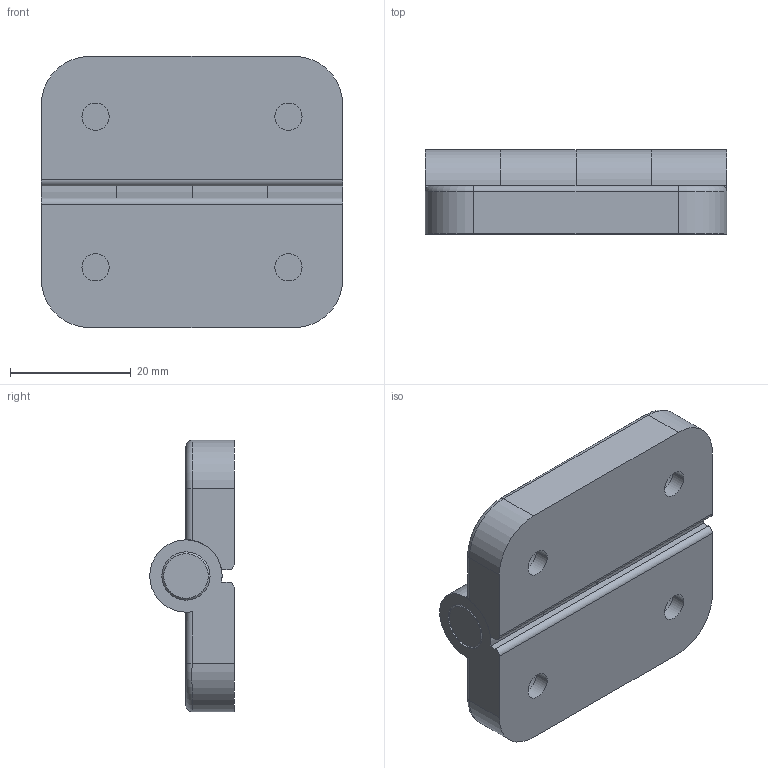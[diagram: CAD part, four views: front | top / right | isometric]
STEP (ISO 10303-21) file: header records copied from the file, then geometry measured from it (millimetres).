
FILE_DESCRIPTION (( 'STEP AP214' ), '1' );
FILE_NAME ('122.2-45-50-CH.step', '2020-09-10T09:42:06', ( '' ), ( '' ), 'SwSTEP 2.0', 'SolidWorks 2019', '' );
FILE_SCHEMA (( 'AUTOMOTIVE_DESIGN' ));
Length unit declared in the file: millimetre
Products named in the file (3): WB122.2^WB122.2_CH mit; 122.2-45-50-CH; WB122.2^WB122.2_CH ohne
Assembly tree (2 placements, depth 2):
  122.2-45-50-CH
    WB122.2^WB122.2_CH mit
    WB122.2^WB122.2_CH ohne
Bounding box: 50 x 14 x 45 mm (x, y, z)
Volume: 18824.9 mm3; surface area: 9861.5 mm2
Topology: 2 solids, 2 shells, 88 faces, 196 edges, 122 vertices
Faces by surface type: cylinder 50, plane 30, cone 4, torus 4
Entity records: 2594 total; most frequent: DIRECTION 486, CARTESIAN_POINT 429, ORIENTED_EDGE 392, AXIS2_PLACEMENT_3D 199, EDGE_CURVE 196, VERTEX_POINT 122, CIRCLE 106, EDGE_LOOP 104
